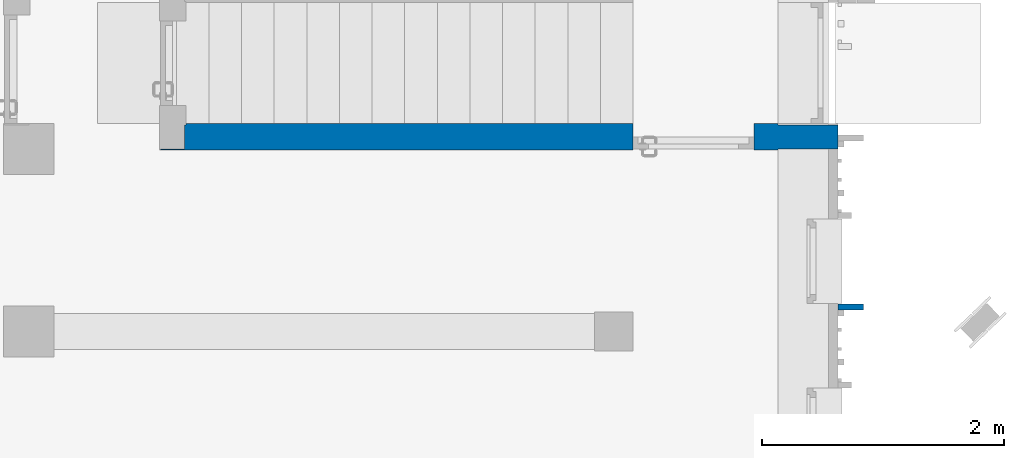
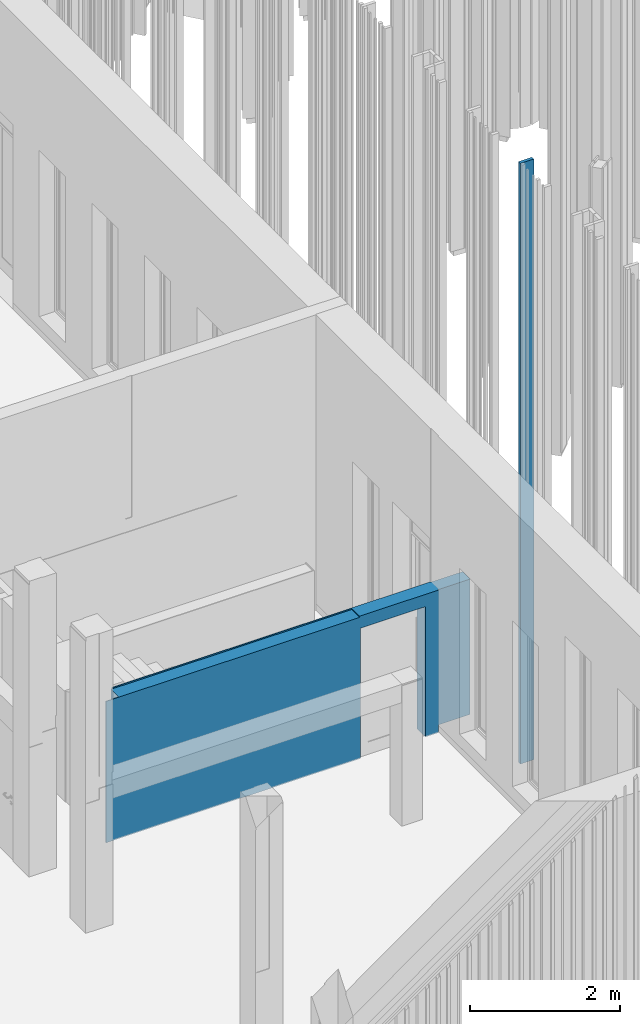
# One storey, part 182 of 390: 2 walls.
"""IFC2X3 building model written with IfcOpenShell, lengths in millimetres."""

from ifc_helpers import new_model, entity, si_unit, converted_unit, derived_unit, money_unit, direction, frame, origin_with_axes, place, context, subcontext, project, spatial, faceted_brep, material, material_list, type_object, element, save


model = new_model("IFC2X3")

# Units and contexts
model_context = context("Model", 3, precision=1e-05, world=origin_with_axes(), true_north=direction((0.0, 1.0)))
body_context = subcontext(model_context, "Body", "Model", "MODEL_VIEW")
ifc_project = project(units=[si_unit("LENGTHUNIT", "METRE", prefix="MILLI"), si_unit("AREAUNIT", "SQUARE_METRE"), si_unit("VOLUMEUNIT", "CUBIC_METRE"), converted_unit("PLANEANGLEUNIT", "DEGREE", entity("IfcPlaneAngleMeasure", 0.0174532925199), si_unit("PLANEANGLEUNIT", "RADIAN"), dimensions=[0, 0, 0, 0, 0, 0, 0]), si_unit("SOLIDANGLEUNIT", "STERADIAN"), money_unit("EUR"), converted_unit("TIMEUNIT", "Year", entity("IfcTimeMeasure", 31556926.0), si_unit("TIMEUNIT", "SECOND"), dimensions=[0, 0, 1, 0, 0, 0, 0]), si_unit("MASSUNIT", "GRAM", prefix="KILO"), si_unit("THERMODYNAMICTEMPERATUREUNIT", "DEGREE_CELSIUS"), si_unit("LUMINOUSINTENSITYUNIT", "LUMEN"), si_unit("ENERGYUNIT", "JOULE", prefix="MEGA"), derived_unit("THERMALCONDUCTANCEUNIT", [(si_unit("POWERUNIT", "WATT"), 1), (si_unit("LENGTHUNIT", "METRE"), -1), (si_unit("THERMODYNAMICTEMPERATUREUNIT", "KELVIN"), -1)]), derived_unit("SPECIFICHEATCAPACITYUNIT", [(si_unit("ENERGYUNIT", "JOULE"), 1), (si_unit("MASSUNIT", "GRAM", prefix="KILO"), -1), (si_unit("THERMODYNAMICTEMPERATUREUNIT", "KELVIN"), -1)]), derived_unit("MASSDENSITYUNIT", [(si_unit("MASSUNIT", "GRAM", prefix="KILO"), 1), (si_unit("VOLUMEUNIT", "CUBIC_METRE"), -1)])], contexts=[model_context])

# Site, building, storey
site_placement = place(None, origin_with_axes())
site = spatial("IfcSite", under=ifc_project, at=site_placement, Name="Site", CompositionType="ELEMENT")
building_placement = place(site_placement, origin_with_axes())
building = spatial("IfcBuilding", under=site, at=building_placement, Name="Building", CompositionType="ELEMENT")
storey_placement = place(building_placement, origin_with_axes())
storey = spatial("IfcBuildingStorey", under=building, at=storey_placement, Name="1 korrus", CompositionType="ELEMENT", Elevation=0.0)

# Walls
ifc_material_1 = material(Name="Krohv - Lubjakivi")
ifc_material_2 = material(Name="Raudbetoon - Konstruktsioon")
ifc_material_list = material_list([ifc_material_1, ifc_material_2, ifc_material_1])
wall_type_1 = type_object("IfcWallType", Name="SS-10", PredefinedType="NOTDEFINED")
wall_1_placement = place(storey_placement, frame((139289.999992, 53669.9993891, -20.0), z_axis=(0.0, 0.0, 1.0), x_axis=(-1.0, -5.90723479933e-10, 0.0)))
element("IfcWall", 1, at=wall_1_placement, inside=storey, type_object=wall_type_1, material=ifc_material_list, Name="SS-10", context=body_context, shape_type="Brep", body=[
    faceted_brep([(1199.99999392, -10.0000007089, 2120.0), (1199.99999392, -10.0000007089, 20.0), (1199.9999938, -10.0000007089, 0.0), (5109.99999404, -10.0000030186, 0.0), (5109.99999404, -10.0000030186, 2300.0), (1209.99999403, -10.0000007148, 2300.0), (1209.99999403, -10.0000007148, 2320.0), (-4.72849137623e-06, -10.0, 2320.0), (-6.66403821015e-06, -10.0, 0.0), (199.999993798, -10.0000001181, 0.0), (199.999993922, -10.0000001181, 20.0), (199.999993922, -10.0000001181, 2120.0), (1199.99999393, -7.08865854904e-07, 2120.0), (1199.99999393, -7.08865854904e-07, 20.0), (1199.9999938, -7.08865854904e-07, 0.0), (5109.99999395, -3.01859870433e-06, 0.0), (5109.99999395, -3.01859870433e-06, 2300.0), (1209.99999404, -7.14770465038e-07, 2300.0), (1209.99999404, -7.14770465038e-07, 2320.0), (-4.72257966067e-06, 0.0, 2320.0), (-6.65812649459e-06, 0.0, 0.0), (199.999993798, -1.18141940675e-07, 0.0), (199.999993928, -1.18141940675e-07, 20.0), (199.999993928, -1.18141940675e-07, 2120.0)], [[[0, 1, 2, 3, 4, 5, 6, 7, 8, 9, 10, 11]], [[1, 0, 12, 13]], [[1, 13, 14, 2]], [[14, 15, 3, 2]], [[4, 3, 15, 16]], [[4, 16, 17, 5]], [[6, 5, 17, 18]], [[18, 19, 7, 6]], [[19, 20, 8, 7]], [[9, 8, 20, 21]], [[22, 10, 9, 21]], [[11, 10, 22, 23]], [[0, 11, 23, 12]], [[23, 22, 21, 20, 19, 18, 17, 16, 15, 14, 13, 12]]]),
    faceted_brep([(1199.9999938, -210.000006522, 2120.0), (1199.9999938, -210.000000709, 20.0), (1199.9999938, -210.000000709, 0.0), (4909.99999587, -210.0000029, 0.0), (4909.99999587, -210.000008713, 2300.0), (1209.9999938, -210.000006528, 2300.0), (1209.9999938, -210.000006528, 2320.0), (-497.000004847, -209.999999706, 2320.0), (-497.000004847, -209.999999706, 119.999998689), (-10.0000067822, -209.999999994, 120.0), (-10.0000067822, -209.999999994, 0.0), (199.999993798, -210.000000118, 0.0), (199.999993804, -210.000000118, 20.0), (199.999993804, -210.000005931, 2120.0), (1199.99999392, -10.0000007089, 2120.0), (1199.99999392, -10.0000007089, 20.0), (1199.9999938, -10.0000007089, 0.0), (4909.99999404, -10.0000029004, 0.0), (4909.99999404, -10.0000029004, 2300.0), (1209.99999403, -10.0000007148, 2300.0), (1209.99999403, -10.0000007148, 2320.0), (-497.000004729, -9.99999970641, 2320.0), (-497.000004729, -9.99999970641, 119.999998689), (-10.000006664, -9.99999999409, 120.0), (-10.000006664, -9.99999999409, 0.0), (199.999993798, -10.0000001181, 0.0), (199.999993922, -10.0000001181, 20.0), (199.999993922, -10.0000001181, 2120.0)], [[[0, 1, 2, 3, 4, 5, 6, 7, 8, 9, 10, 11, 12, 13]], [[1, 0, 14, 15]], [[1, 15, 16, 2]], [[16, 17, 3, 2]], [[4, 3, 17, 18]], [[4, 18, 19, 5]], [[6, 5, 19, 20]], [[20, 21, 7, 6]], [[21, 22, 8, 7]], [[23, 9, 8, 22]], [[10, 9, 23, 24]], [[11, 10, 24, 25]], [[26, 12, 11, 25]], [[13, 12, 26, 27]], [[0, 13, 27, 14]], [[27, 26, 25, 24, 23, 22, 21, 20, 19, 18, 17, 16, 15, 14]]]),
    faceted_brep([(1199.9999938, -220.000008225, 2120.0), (1199.9999938, -220.000008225, 20.0), (1199.9999938, -220.000006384, 0.0), (4899.99999597, -220.000002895, 0.0), (4899.99999597, -220.000002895, 2320.0), (-4.85252371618e-06, -220.0, 2320.0), (-6.7880705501e-06, -220.000007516, 120.0), (-6.7880705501e-06, -220.000007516, 0.0), (199.999993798, -220.000007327, 0.0), (199.999993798, -220.000007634, 20.0), (199.999993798, -220.000007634, 2120.0), (1199.9999938, -210.000000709, 2120.0), (1199.9999938, -210.000000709, 20.0), (1199.9999938, -210.000000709, 0.0), (4899.99999587, -210.000002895, 0.0), (4899.99999587, -210.000002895, 2320.0), (-4.84664042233e-06, -210.0, 2320.0), (-6.78218725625e-06, -210.0, 0.0), (199.999993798, -210.000000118, 0.0), (199.999993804, -210.000000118, 20.0), (199.999993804, -210.000000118, 2120.0)], [[[0, 1, 2, 3, 4, 5, 6, 7, 8, 9, 10]], [[1, 0, 11, 12]], [[1, 12, 13, 2]], [[13, 14, 3, 2]], [[4, 3, 14, 15]], [[16, 5, 4, 15]], [[17, 7, 6, 5, 16]], [[8, 7, 17, 18]], [[19, 9, 8, 18]], [[10, 9, 19, 20]], [[0, 10, 20, 11]], [[20, 19, 18, 17, 16, 15, 14, 13, 12, 11]]]),
])
ifc_material_3 = material(Name="Site specified")
wall_type_2 = type_object("IfcWallType", Name="Puitfassaadi ribistik", PredefinedType="NOTDEFINED")
wall_2_placement = place(storey_placement, frame((139891.499998, 52371.8244708, 100.000000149), z_axis=(0.0, 0.0, 1.0), x_axis=(0.0, -1.0, 0.0)))
element("IfcWall", 2, at=wall_2_placement, inside=storey, type_object=wall_type_2, material=ifc_material_3, Name="Site specified", context=body_context, shape_type="Brep", body=[
    faceted_brep([(-25.0, -104.5, 9764.99999985), (-25.0, -104.5, 0.0), (25.0, -104.5, 0.0), (25.0, -104.5, 9764.99999985), (-25.0, 104.5, 9764.99999985), (-25.0, 104.5, 0.0), (25.0, 104.5, 0.0), (25.0, 104.5, 9764.99999985)], [[[0, 1, 2, 3]], [[4, 5, 1, 0]], [[2, 1, 5, 6]], [[3, 2, 6, 7]], [[4, 0, 3, 7]], [[7, 6, 5, 4]]]),
])

save(model, "model.ifc")
